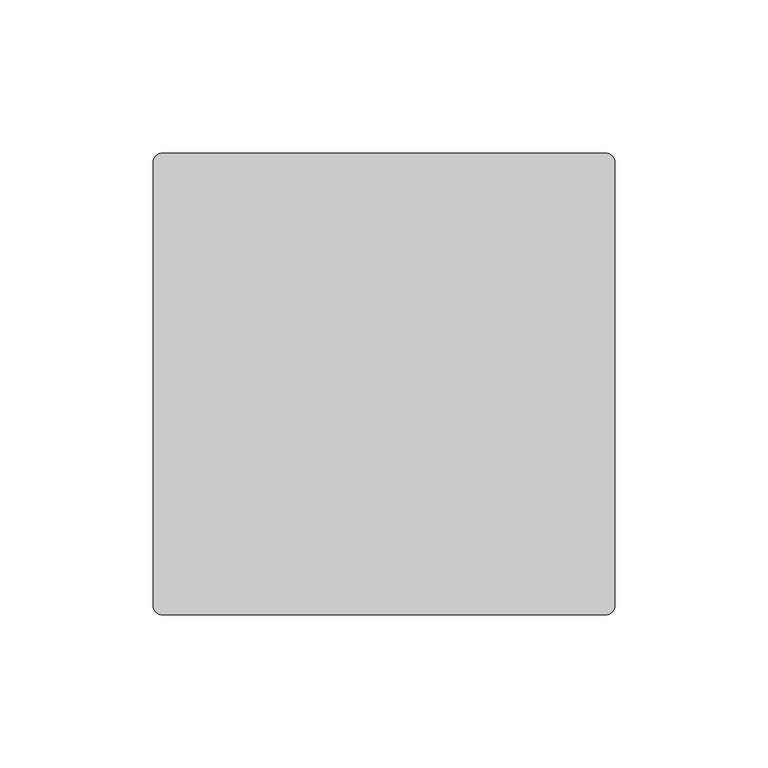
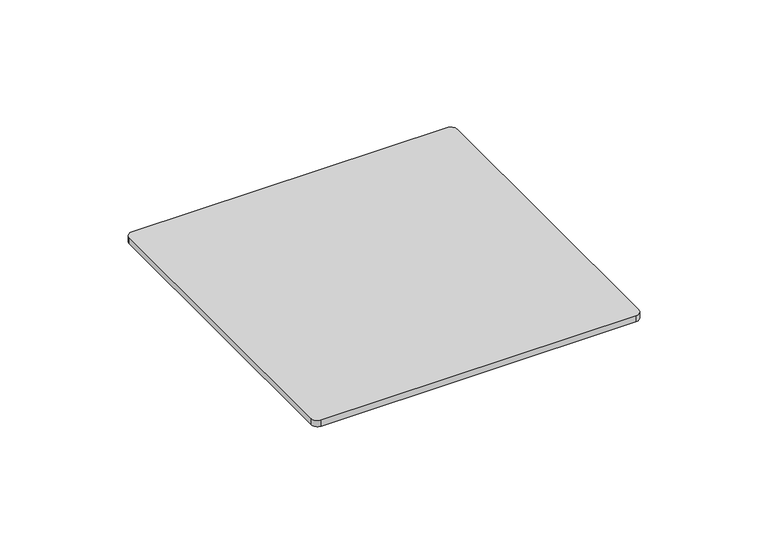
"""IFC4 building model written with IfcOpenShell, lengths in millimetres: pipe fitting geometry, AmancoWavin_ConexõesdeTubos_EsgotoZNãoUsarGrelhaVorticeSilentium : Aço Inox Polido."""

import ifcopenshell
import ifcopenshell.guid

model = None  # the IFC model being written
_history = None  # IfcOwnerHistory: only IFC2X3 demands one
_inside = {}  # id of a spatial element -> (the spatial element, [elements in it])
_under = {}  # id of a project, library or spatial element -> (it, [spatial elements below it])
_declared = {}  # id of a project -> (the project, [libraries it declares])
_typed = {}  # id of a type object -> (the type object, [elements of that type])
_made_of = {}  # id of a material, layer set ... -> (it, [elements and type objects made of it])


def new_model(schema):
    """Start an empty IFC model of exactly this schema.

    Asked for "IFC4X3", IfcOpenShell would pick the latest addendum, in which some entities
    have other attributes; the version numbers below select the first issue.
    IFC2X3 requires an IfcOwnerHistory on every rooted entity: one is made here for all.
    """
    global model, _history
    if schema == "IFC4X3":
        model = ifcopenshell.file(schema_version=(4, 3, 0, 0))
    else:
        model = ifcopenshell.file(schema=schema)
    _inside.clear()
    _under.clear()
    _declared.clear()
    _typed.clear()
    _made_of.clear()
    _history = None
    if model.schema == "IFC2X3":
        org = make("IfcOrganization", Name="unknown")
        user = make(
            "IfcPersonAndOrganization",
            ThePerson=make("IfcPerson", FamilyName="unknown"),
            TheOrganization=org,
        )
        app = make(
            "IfcApplication",
            ApplicationDeveloper=org,
            Version="unknown",
            ApplicationFullName="unknown",
            ApplicationIdentifier="unknown",
        )
        _history = make(
            "IfcOwnerHistory",
            OwningUser=user,
            OwningApplication=app,
            ChangeAction="ADDED",
            CreationDate=0,
        )
    return model


def make(cls, **values):
    """One entity of the class cls with the attributes given. An attribute that is None is left unset."""
    return model.create_entity(
        cls, **{name: value for name, value in values.items() if value is not None}
    )


def rooted(cls, **values):
    """An entity with a GlobalId (a new one), such as an element, a storey or a relation."""
    return make(cls, GlobalId=ifcopenshell.guid.new(), OwnerHistory=_history, **values)


def si_unit(unit_type, name, prefix=None):
    """IfcSIUnit, for example si_unit("LENGTHUNIT", "METRE", prefix="MILLI")."""
    return make("IfcSIUnit", UnitType=unit_type, Prefix=prefix, Name=name)


def assignment(units):
    """IfcUnitAssignment: the units of a project."""
    return None if units is None else make("IfcUnitAssignment", Units=units)


def point(xyz):
    """IfcCartesianPoint."""
    return None if xyz is None else make("IfcCartesianPoint", Coordinates=xyz)


def direction(xyz):
    """IfcDirection."""
    return None if xyz is None else make("IfcDirection", DirectionRatios=xyz)


def frame(location, z_axis=None, x_axis=None):
    """IfcAxis2Placement3D, a coordinate frame: its origin and axes. An axis left out is left unset."""
    return make(
        "IfcAxis2Placement3D",
        Location=point(location),
        Axis=direction(z_axis),
        RefDirection=direction(x_axis),
    )


def frame_2d(location, x_axis=None):
    """IfcAxis2Placement2D, a coordinate frame in the plane: its origin and x axis."""
    return make(
        "IfcAxis2Placement2D", Location=point(location), RefDirection=direction(x_axis)
    )


def origin():
    """The frame at (0, 0, 0) with its axes left unset."""
    return frame((0.0, 0.0, 0.0))


def origin_with_axes():
    """The frame at (0, 0, 0) with the z axis (0, 0, 1) and the x axis (1, 0, 0) written out."""
    return frame((0.0, 0.0, 0.0), z_axis=(0.0, 0.0, 1.0), x_axis=(1.0, 0.0, 0.0))


def place(relative_to, where):
    """IfcLocalPlacement: puts the frame where relative to a parent placement (None: the world)."""
    return make(
        "IfcLocalPlacement", PlacementRelTo=relative_to, RelativePlacement=where
    )


def context(
    kind, dimensions, precision=None, world=None, true_north=None, identifier=None
):
    """IfcGeometricRepresentationContext, for example the 3D "Model" context."""
    return make(
        "IfcGeometricRepresentationContext",
        ContextIdentifier=identifier,
        ContextType=kind,
        CoordinateSpaceDimension=dimensions,
        Precision=precision,
        WorldCoordinateSystem=world,
        TrueNorth=true_north,
    )


def project(units=None, contexts=None):
    """IfcProject with its units and contexts."""
    return rooted(
        "IfcProject",
        Name="project",
        RepresentationContexts=contexts,
        UnitsInContext=assignment(units),
    )


def spatial(cls, under=None, at=None, **own):
    """A site, building, storey or space (cls), placed at a placement, below another one or the project."""
    s = rooted(cls, ObjectPlacement=at, **own)
    if under is not None:
        _under.setdefault(under.id(), (under, []))[1].append(s)
    return s


def polyline(points):
    """IfcPolyline through the points."""
    return make("IfcPolyline", Points=[point(p) for p in points])


def circle_curve(where, radius):
    """IfcCircle in the frame where."""
    return make("IfcCircle", Position=where, Radius=radius)


def trimmed(basis, trim1, trim2, sense, master):
    """IfcTrimmedCurve: the piece of a basis curve between two trims."""
    return make(
        "IfcTrimmedCurve",
        BasisCurve=basis,
        Trim1=trim1,
        Trim2=trim2,
        SenseAgreement=sense,
        MasterRepresentation=master,
    )


def segment(curve, same_sense, transition):
    """IfcCompositeCurveSegment."""
    return make(
        "IfcCompositeCurveSegment",
        Transition=transition,
        SameSense=same_sense,
        ParentCurve=curve,
    )


def composite_curve(segments, self_intersect=None):
    """IfcCompositeCurve: segments joined end to end."""
    return make("IfcCompositeCurve", Segments=segments, SelfIntersect=self_intersect)


def outline(outer, holes=None, kind="AREA"):
    """IfcArbitraryClosedProfileDef: a profile drawn as a closed curve; with holes, ...WithVoids."""
    if holes is None:
        return make("IfcArbitraryClosedProfileDef", ProfileType=kind, OuterCurve=outer)
    return make(
        "IfcArbitraryProfileDefWithVoids",
        ProfileType=kind,
        OuterCurve=outer,
        InnerCurves=holes,
    )


def extrude(swept, where, along, depth):
    """IfcExtrudedAreaSolid: the profile swept, set in the frame where, extruded along a direction by depth."""
    return make(
        "IfcExtrudedAreaSolid",
        SweptArea=swept,
        Position=where,
        ExtrudedDirection=direction(along),
        Depth=depth,
    )


def shape(context_of_items, identifier, shape_type, items):
    """IfcShapeRepresentation: the items that make up one representation, for example the "Body"."""
    return make(
        "IfcShapeRepresentation",
        ContextOfItems=context_of_items,
        RepresentationIdentifier=identifier,
        RepresentationType=shape_type,
        Items=items,
    )


def source(mapping_origin, context_of_items, identifier, shape_type, items):
    """IfcRepresentationMap: a shape defined once, which mapped items show again and again."""
    return make(
        "IfcRepresentationMap",
        MappingOrigin=mapping_origin,
        MappedRepresentation=shape(context_of_items, identifier, shape_type, items),
    )


def transform(
    local_origin,
    x_axis=None,
    y_axis=None,
    z_axis=None,
    scale=None,
    scale2=None,
    scale3=None,
    uniform=True,
):
    """IfcCartesianTransformationOperator3D, or its non-uniform kind. x_axis, y_axis, z_axis: its Axis1, 2, 3."""
    if uniform:
        return make(
            "IfcCartesianTransformationOperator3D",
            Axis1=direction(x_axis),
            Axis2=direction(y_axis),
            LocalOrigin=point(local_origin),
            Scale=scale,
            Axis3=direction(z_axis),
        )
    return make(
        "IfcCartesianTransformationOperator3DnonUniform",
        Axis1=direction(x_axis),
        Axis2=direction(y_axis),
        LocalOrigin=point(local_origin),
        Scale=scale,
        Axis3=direction(z_axis),
        Scale2=scale2,
        Scale3=scale3,
    )


def mapped(mapping_source, mapping_target):
    """IfcMappedItem: shows the shape of a source again, moved by a transform."""
    return make(
        "IfcMappedItem", MappingSource=mapping_source, MappingTarget=mapping_target
    )


def made_of(thing, what):
    """Note that an element or type object is made of a material, layer set ...; save() writes the relation."""
    if what is not None:
        _made_of.setdefault(what.id(), (what, []))[1].append(thing)
    return thing


def element(
    cls,
    number,
    at=None,
    inside=None,
    cuts=None,
    type_object=None,
    material=None,
    context=None,
    identifier="Body",
    shape_type=None,
    held_by="IfcProductDefinitionShape",
    body=None,
    shapes=None,
    **own,
):
    """One element of the class cls, such as IfcWall. Its Tag is "e" and its number.

    at: its placement. inside: the storey or other place that contains it. cuts: it is an
    opening in that element (IfcRelVoidsElement). A single representation is given by context,
    identifier, shape_type and body (its items); several are given by shapes. held_by: the class
    of the entity that holds the representations. save() writes the other relations.
    """
    e = rooted(cls, Tag="e%d" % number, ObjectPlacement=at, **own)
    if body is not None:
        shapes = [shape(context, identifier, shape_type, body)]
    if shapes is not None:
        e.Representation = make(held_by, Representations=shapes)
    if inside is not None:
        _inside.setdefault(inside.id(), (inside, []))[1].append(e)
    if cuts is not None:
        rooted(
            "IfcRelVoidsElement", RelatingBuildingElement=cuts, RelatedOpeningElement=e
        )
    if type_object is not None:
        _typed.setdefault(type_object.id(), (type_object, []))[1].append(e)
    return made_of(e, material)


def aggregate(whole, parts):
    """IfcRelAggregates: a whole, such as a stair, and the parts it consists of."""
    return rooted("IfcRelAggregates", RelatingObject=whole, RelatedObjects=parts)


def save(model, path):
    """Write the relations noted so far, then the file.

    IfcRelAggregates (storeys below a building ...), IfcRelContainedInSpatialStructure (elements
    in a storey), IfcRelDefinesByType, IfcRelAssociatesMaterial and IfcRelDeclares: one each for
    every whole, place, type object, material and project.
    """
    for whole, parts in _under.values():
        aggregate(whole, parts)
    for where, things in _inside.values():
        rooted(
            "IfcRelContainedInSpatialStructure",
            RelatedElements=things,
            RelatingStructure=where,
        )
    for kind, things in _typed.values():
        rooted("IfcRelDefinesByType", RelatedObjects=things, RelatingType=kind)
    for what, things in _made_of.values():
        rooted("IfcRelAssociatesMaterial", RelatedObjects=things, RelatingMaterial=what)
    for by, libraries in _declared.values():
        rooted("IfcRelDeclares", RelatingContext=by, RelatedDefinitions=libraries)
    model.write(path)


def pipe_fitting_1affa7ac(model_context):
    return source(origin(), model_context, "Body", "SweptSolid", [
        extrude(outline(composite_curve([segment(trimmed(circle_curve(frame_2d((1.9973558, 72.4)), 3.0), [point((1.9973558, 75.4))], [point((4.9973558, 72.4))], False, "CARTESIAN"), True, "CONTINUOUS"), segment(polyline([(4.9973558, 72.4), (4.9973558, -72.4)]), True, "CONTINUOUS"), segment(trimmed(circle_curve(frame_2d((1.9973558, -72.4)), 3.0), [point((4.9973558, -72.4))], [point((1.9973558, -75.4))], False, "CARTESIAN"), True, "CONTINUOUS"), segment(polyline([(1.9973558, -75.4), (-142.8026442, -75.4)]), True, "CONTINUOUS"), segment(trimmed(circle_curve(frame_2d((-142.8026442, -72.4)), 3.0), [point((-142.8026442, -75.4))], [point((-145.8026442, -72.4))], False, "CARTESIAN"), True, "CONTINUOUS"), segment(polyline([(-145.8026442, -72.4), (-145.8026442, 72.4)]), True, "CONTINUOUS"), segment(trimmed(circle_curve(frame_2d((-142.8026442, 72.4)), 3.0), [point((-145.8026442, 72.4))], [point((-142.8026442, 75.4))], False, "CARTESIAN"), True, "CONTINUOUS"), segment(polyline([(-142.8026442, 75.4), (1.9973558, 75.4)]), True, "CONTINUOUS")], self_intersect=False)), origin_with_axes(), (0.0, 0.0, 1.0), 3.0),
    ])


if __name__ == "__main__":
    model = new_model("IFC4")
    model_context = context("Model", 3, world=origin())
    ifc_project = project(units=[si_unit("LENGTHUNIT", "METRE", prefix="MILLI")], contexts=[model_context])
    site = spatial("IfcSite", under=ifc_project)
    building = spatial("IfcBuilding", under=site)
    placement = place(None, origin())
    pipe_fitting_shape = pipe_fitting_1affa7ac(model_context)
    element("IfcPipeFitting", 1, ObjectType="AmancoWavin_ConexõesdeTubos_EsgotoZNãoUsarGrelhaVorticeSilentium : Aço Inox Polido", at=placement, inside=building, context=model_context, shape_type="MappedRepresentation", body=[
        mapped(pipe_fitting_shape, transform((0.0, 0.0, 0.0), x_axis=(1.0, 0.0, 0.0), y_axis=(0.0, 1.0, 0.0), z_axis=(0.0, 0.0, 1.0))),
    ])
    save(model, "model.ifc")
